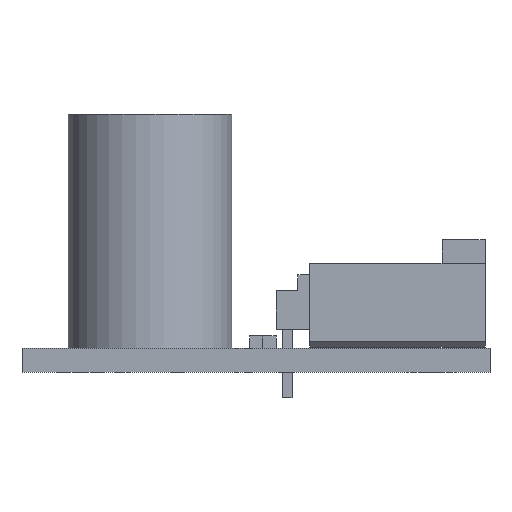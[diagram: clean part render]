
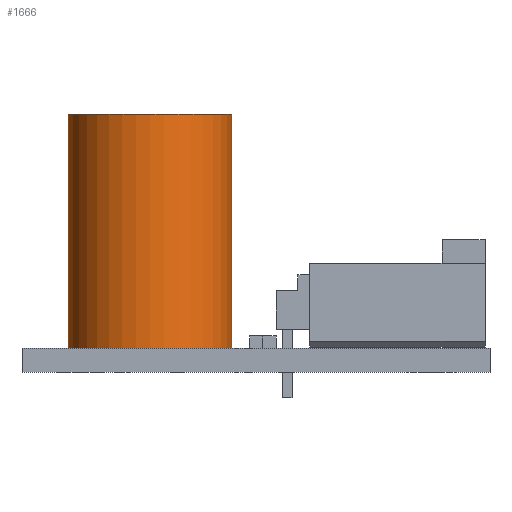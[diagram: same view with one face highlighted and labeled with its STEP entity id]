
A CAD part, front view. The second image highlights one B-rep face of the part: STEP entity #1666.
In plain terms, the highlighted cylindrical face has radius 5.334 mm (diameter 10.668 mm), a full revolution.
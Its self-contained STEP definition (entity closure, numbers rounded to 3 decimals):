
#1666 = ADVANCED_FACE('',(#1667),#1681,.T.);
#1667 = FACE_BOUND('',#1668,.T.);
#1668 = EDGE_LOOP('',(#1669,#1699,#1729,#1730));
#1669 = ORIENTED_EDGE('',*,*,#1670,.F.);
#1670 = EDGE_CURVE('',#1671,#1673,#1675,.T.);
#1671 = VERTEX_POINT('',#1672);
#1672 = CARTESIAN_POINT('',(5.334,0.,0.));
#1673 = VERTEX_POINT('',#1674);
#1674 = CARTESIAN_POINT('',(5.334,0.,15.24));
#1675 = SEAM_CURVE('',#1676,(#1680,#1692),.PCURVE_S1.);
#1676 = LINE('',#1677,#1678);
#1677 = CARTESIAN_POINT('',(5.334,0.,0.));
#1678 = VECTOR('',#1679,1.);
#1679 = DIRECTION('',(0.,0.,1.));
#1680 = PCURVE('',#1681,#1686);
#1681 = CYLINDRICAL_SURFACE('',#1682,5.334);
#1682 = AXIS2_PLACEMENT_3D('',#1683,#1684,#1685);
#1683 = CARTESIAN_POINT('',(0.,0.,0.));
#1684 = DIRECTION('',(0.,0.,-1.));
#1685 = DIRECTION('',(1.,0.,0.));
#1686 = DEFINITIONAL_REPRESENTATION('',(#1687),#1691);
#1687 = LINE('',#1688,#1689);
#1688 = CARTESIAN_POINT('',(6.283,0.));
#1689 = VECTOR('',#1690,1.);
#1690 = DIRECTION('',(0.,-1.));
#1691 = ( GEOMETRIC_REPRESENTATION_CONTEXT(2) 
PARAMETRIC_REPRESENTATION_CONTEXT() REPRESENTATION_CONTEXT('2D SPACE',''
  ) );
#1692 = PCURVE('',#1681,#1693);
#1693 = DEFINITIONAL_REPRESENTATION('',(#1694),#1698);
#1694 = LINE('',#1695,#1696);
#1695 = CARTESIAN_POINT('',(0.,0.));
#1696 = VECTOR('',#1697,1.);
#1697 = DIRECTION('',(0.,-1.));
#1698 = ( GEOMETRIC_REPRESENTATION_CONTEXT(2) 
PARAMETRIC_REPRESENTATION_CONTEXT() REPRESENTATION_CONTEXT('2D SPACE',''
  ) );
#1699 = ORIENTED_EDGE('',*,*,#1700,.T.);
#1700 = EDGE_CURVE('',#1671,#1671,#1701,.T.);
#1701 = SURFACE_CURVE('',#1702,(#1707,#1713),.PCURVE_S1.);
#1702 = CIRCLE('',#1703,5.334);
#1703 = AXIS2_PLACEMENT_3D('',#1704,#1705,#1706);
#1704 = CARTESIAN_POINT('',(0.,0.,0.));
#1705 = DIRECTION('',(0.,0.,1.));
#1706 = DIRECTION('',(1.,0.,0.));
#1707 = PCURVE('',#1681,#1708);
#1708 = DEFINITIONAL_REPRESENTATION('',(#1709),#1712);
#1709 = B_SPLINE_CURVE_WITH_KNOTS('',1,(#1710,#1711),.UNSPECIFIED.,.F.,
  .F.,(2,2),(0.,6.283),.PIECEWISE_BEZIER_KNOTS.);
#1710 = CARTESIAN_POINT('',(6.283,0.));
#1711 = CARTESIAN_POINT('',(0.,0.));
#1712 = ( GEOMETRIC_REPRESENTATION_CONTEXT(2) 
PARAMETRIC_REPRESENTATION_CONTEXT() REPRESENTATION_CONTEXT('2D SPACE',''
  ) );
#1713 = PCURVE('',#1714,#1719);
#1714 = PLANE('',#1715);
#1715 = AXIS2_PLACEMENT_3D('',#1716,#1717,#1718);
#1716 = CARTESIAN_POINT('',(5.334,0.,0.));
#1717 = DIRECTION('',(0.,0.,-1.));
#1718 = DIRECTION('',(-1.,0.,0.));
#1719 = DEFINITIONAL_REPRESENTATION('',(#1720),#1728);
#1720 = ( BOUNDED_CURVE() B_SPLINE_CURVE(2,(#1721,#1722,#1723,#1724,
#1725,#1726,#1727),.UNSPECIFIED.,.F.,.F.) B_SPLINE_CURVE_WITH_KNOTS((1,2
    ,2,2,2,1),(-2.094,0.,2.094,4.189,
6.283,8.378),.UNSPECIFIED.) CURVE() 
GEOMETRIC_REPRESENTATION_ITEM() RATIONAL_B_SPLINE_CURVE((1.,0.5,1.,0.5,
1.,0.5,1.)) REPRESENTATION_ITEM('') );
#1721 = CARTESIAN_POINT('',(0.,0.));
#1722 = CARTESIAN_POINT('',(0.,9.239));
#1723 = CARTESIAN_POINT('',(8.001,4.619));
#1724 = CARTESIAN_POINT('',(16.002,0.));
#1725 = CARTESIAN_POINT('',(8.001,-4.619));
#1726 = CARTESIAN_POINT('',(0.,-9.239));
#1727 = CARTESIAN_POINT('',(0.,0.));
#1728 = ( GEOMETRIC_REPRESENTATION_CONTEXT(2) 
PARAMETRIC_REPRESENTATION_CONTEXT() REPRESENTATION_CONTEXT('2D SPACE',''
  ) );
#1729 = ORIENTED_EDGE('',*,*,#1670,.T.);
#1730 = ORIENTED_EDGE('',*,*,#1731,.F.);
#1731 = EDGE_CURVE('',#1673,#1673,#1732,.T.);
#1732 = SURFACE_CURVE('',#1733,(#1738,#1744),.PCURVE_S1.);
#1733 = CIRCLE('',#1734,5.334);
#1734 = AXIS2_PLACEMENT_3D('',#1735,#1736,#1737);
#1735 = CARTESIAN_POINT('',(0.,0.,15.24));
#1736 = DIRECTION('',(0.,0.,1.));
#1737 = DIRECTION('',(1.,0.,0.));
#1738 = PCURVE('',#1681,#1739);
#1739 = DEFINITIONAL_REPRESENTATION('',(#1740),#1743);
#1740 = B_SPLINE_CURVE_WITH_KNOTS('',1,(#1741,#1742),.UNSPECIFIED.,.F.,
  .F.,(2,2),(0.,6.283),.PIECEWISE_BEZIER_KNOTS.);
#1741 = CARTESIAN_POINT('',(6.283,-15.24));
#1742 = CARTESIAN_POINT('',(0.,-15.24));
#1743 = ( GEOMETRIC_REPRESENTATION_CONTEXT(2) 
PARAMETRIC_REPRESENTATION_CONTEXT() REPRESENTATION_CONTEXT('2D SPACE',''
  ) );
#1744 = PCURVE('',#1745,#1750);
#1745 = PLANE('',#1746);
#1746 = AXIS2_PLACEMENT_3D('',#1747,#1748,#1749);
#1747 = CARTESIAN_POINT('',(5.334,0.,15.24));
#1748 = DIRECTION('',(0.,0.,-1.));
#1749 = DIRECTION('',(-1.,0.,0.));
#1750 = DEFINITIONAL_REPRESENTATION('',(#1751),#1759);
#1751 = ( BOUNDED_CURVE() B_SPLINE_CURVE(2,(#1752,#1753,#1754,#1755,
#1756,#1757,#1758),.UNSPECIFIED.,.F.,.F.) B_SPLINE_CURVE_WITH_KNOTS((1,2
    ,2,2,2,1),(-2.094,0.,2.094,4.189,
6.283,8.378),.UNSPECIFIED.) CURVE() 
GEOMETRIC_REPRESENTATION_ITEM() RATIONAL_B_SPLINE_CURVE((1.,0.5,1.,0.5,
1.,0.5,1.)) REPRESENTATION_ITEM('') );
#1752 = CARTESIAN_POINT('',(0.,0.));
#1753 = CARTESIAN_POINT('',(0.,9.239));
#1754 = CARTESIAN_POINT('',(8.001,4.619));
#1755 = CARTESIAN_POINT('',(16.002,0.));
#1756 = CARTESIAN_POINT('',(8.001,-4.619));
#1757 = CARTESIAN_POINT('',(0.,-9.239));
#1758 = CARTESIAN_POINT('',(0.,0.));
#1759 = ( GEOMETRIC_REPRESENTATION_CONTEXT(2) 
PARAMETRIC_REPRESENTATION_CONTEXT() REPRESENTATION_CONTEXT('2D SPACE',''
  ) );
